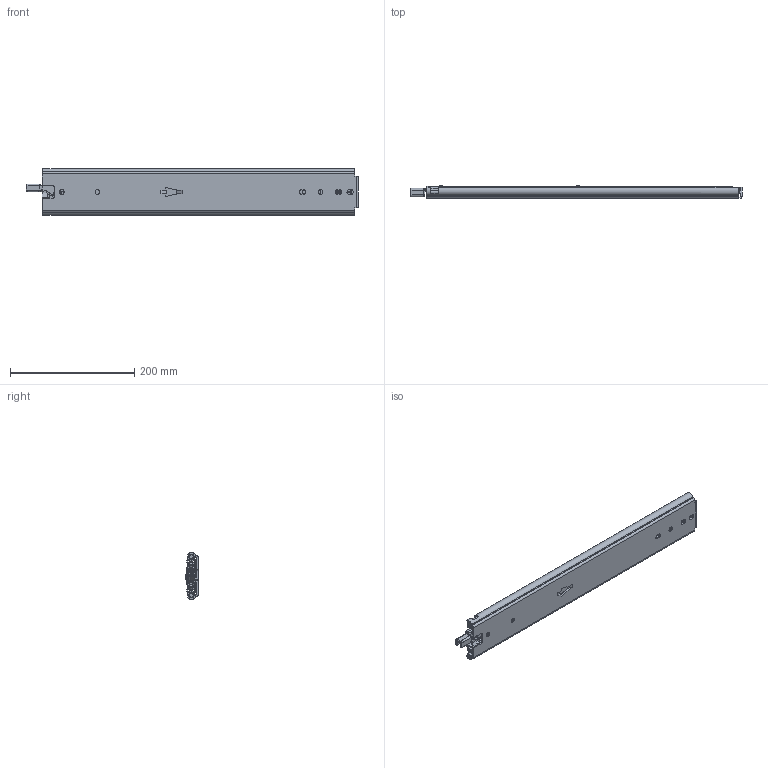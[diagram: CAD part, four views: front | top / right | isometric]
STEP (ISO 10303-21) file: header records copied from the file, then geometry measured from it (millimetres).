
FILE_DESCRIPTION((''),'2;1');
FILE_NAME('DG-76-3S-20YOU_ASM','2023-05-09T',('jishu015'),(''),'PRO/ENGINEER BY PARAMETRIC TECHNOLOGY CORPORATION, 2010280','PRO/ENGINEER BY PARAMETRIC TECHNOLOGY CORPORATION, 2010280','');
FILE_SCHEMA(('CONFIG_CONTROL_DESIGN'));
Length unit declared in the file: millimetre
Products named in the file (29): KP-76-04WAIKE-1816___; 1076-WAIKEZIDANJIAO16___; WAIK16____ASM; 1076XIAOZHUTIAO-22516___; 16___; 1076XIAOZHUTIAO-17516____ASM; KP-76-04ZHONGGUI1816___; 76CHANGGUIZHONGGUIJIAO16___; 3X6WODIN16___; ZHONGGUIBAIKOU16___; PJ-76-30__; PJ-76-03__; 76-XIAOZHUJIA-11__; GANGZHU-XIAO__; ZHUJIA-XIAO___ASM; ZHONGGUI6____ASM; KP-76-04NEIGUI1816___; PJ-76-31__; DAOGPIAN16___; 1053-3SBANJ01__; JIAO-11__; 76XINSUOKOU__; PJ-338__; PJ-356__; PJ-357__; PJ-336__; M4X4__; NEIGUI16____ASM; DG-76-3S-20YOU_ASM
Assembly tree (52 placements, depth 4):
  DG-76-3S-20YOU_ASM
    WAIK16____ASM
      KP-76-04WAIKE-1816___
      1076-WAIKEZIDANJIAO16___  x2
    1076XIAOZHUTIAO-17516____ASM  x2
      1076XIAOZHUTIAO-22516___
      16___
    ZHONGGUI6____ASM
      KP-76-04ZHONGGUI1816___
      76CHANGGUIZHONGGUIJIAO16___
      3X6WODIN16___
      ZHONGGUIBAIKOU16___
      PJ-76-30__
      PJ-76-03__
      ZHUJIA-XIAO___ASM
        76-XIAOZHUJIA-11__
        GANGZHU-XIAO__  x16
    NEIGUI16____ASM
      KP-76-04NEIGUI1816___
      PJ-76-31__
      DAOGPIAN16___
      1053-3SBANJ01__
      JIAO-11__
      76XINSUOKOU__
      PJ-338__
      PJ-356__
      PJ-357__
      PJ-336__
      M4X4__
Bounding box: 533.92 x 20.7 x 75.3 mm (x, y, z)
Volume: 331504.7 mm3; surface area: 319199.7 mm2
Topology: 56 solids, 56 shells, 1815 faces, 5403 edges, 3479 vertices
Faces by surface type: plane 811, cylinder 686, bspline 116, torus 80, sphere 71, cone 28, extrusion 23
Entity records: 65469 total; most frequent: CARTESIAN_POINT 21171, ORIENTED_EDGE 9786, DIRECTION 8580, EDGE_CURVE 4893, VERTEX_POINT 3211, AXIS2_PLACEMENT_3D 3021, VECTOR 2538, LINE 2515
